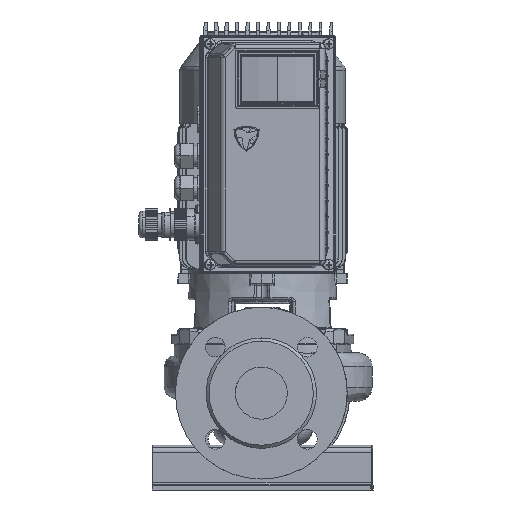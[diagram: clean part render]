
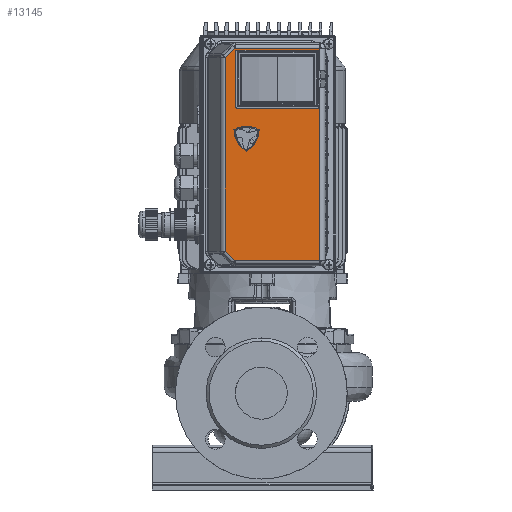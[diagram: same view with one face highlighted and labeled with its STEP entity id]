
A CAD part, front view. The second image highlights one B-rep face of the part: STEP entity #13145.
In plain terms, the highlighted planar face has unit normal (-0.01, -1, 0) as drawn and (0, 0.276, -0.961) by its records, which use the part's own axes.
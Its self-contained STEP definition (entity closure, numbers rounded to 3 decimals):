
#13145=ADVANCED_FACE('',(#26894,#26895),#26896,.T.);
#13173=EDGE_CURVE('',#26938,#26921,#26941,.T.);
#13765=EDGE_CURVE('',#27885,#27865,#27886,.T.);
#14253=EDGE_CURVE('',#28655,#28656,#28657,.T.);
#14261=EDGE_CURVE('',#28656,#28667,#28668,.T.);
#14267=EDGE_CURVE('',#28667,#28675,#28676,.T.);
#14273=EDGE_CURVE('',#28675,#28655,#28683,.T.);
#14735=EDGE_CURVE('',#29199,#27885,#29200,.T.);
#15273=EDGE_CURVE('',#29794,#26938,#29797,.T.);
#15277=EDGE_CURVE('',#27865,#26921,#29801,.T.);
#15279=EDGE_CURVE('',#29199,#29794,#29803,.T.);
#26894=FACE_OUTER_BOUND('',#49371,.T.);
#26895=FACE_BOUND('',#49372,.T.);
#26896=PLANE('',#49373);
#26921=VERTEX_POINT('',#49404);
#26938=VERTEX_POINT('',#49427);
#26941=LINE('',#49431,#49432);
#27865=VERTEX_POINT('',#50714);
#27885=VERTEX_POINT('',#50741);
#27886=LINE('',#50742,#50743);
#28655=VERTEX_POINT('',#51815);
#28656=VERTEX_POINT('',#51816);
#28657=LINE('',#51817,#51818);
#28667=VERTEX_POINT('',#51835);
#28668=LINE('',#51836,#51837);
#28675=VERTEX_POINT('',#51849);
#28676=LINE('',#51850,#51851);
#28683=LINE('',#51863,#51864);
#29199=VERTEX_POINT('',#52673);
#29200=LINE('',#52674,#52675);
#29794=VERTEX_POINT('',#53618);
#29797=LINE('',#53622,#53623);
#29801=LINE('',#53629,#53630);
#29803=LINE('',#53633,#53634);
#49371=EDGE_LOOP('',(#80060,#80061,#80062,#80063,#80064,#80065));
#49372=EDGE_LOOP('',(#80066,#80067,#80068,#80069));
#49373=AXIS2_PLACEMENT_3D('',#80070,#80071,#80072);
#49404=CARTESIAN_POINT('',(-102.0,-29.808,20.194));
#49427=CARTESIAN_POINT('',(-102.0,48.307,42.593));
#49431=CARTESIAN_POINT('',(-102.0,48.307,42.593));
#49432=VECTOR('',#80123,1.0);
#50714=CARTESIAN_POINT('',(102.0,-29.808,20.194));
#50741=CARTESIAN_POINT('',(102.0,48.307,42.593));
#50742=CARTESIAN_POINT('',(102.0,48.307,42.593));
#50743=VECTOR('',#80886,1.0);
#51815=CARTESIAN_POINT('',(-50.,42.286,40.866));
#51816=CARTESIAN_POINT('',(-95.,42.286,40.866));
#51817=CARTESIAN_POINT('',(-50.,42.286,40.866));
#51818=VECTOR('',#81513,1.0);
#51835=CARTESIAN_POINT('',(-95.,-24.041,21.847));
#51836=CARTESIAN_POINT('',(-95.,42.286,40.866));
#51837=VECTOR('',#81517,1.0);
#51849=CARTESIAN_POINT('',(-50.,-24.041,21.847));
#51850=CARTESIAN_POINT('',(-95.,-24.041,21.847));
#51851=VECTOR('',#81520,1.0);
#51863=CARTESIAN_POINT('',(-50.,-24.041,21.847));
#51864=VECTOR('',#81523,1.0);
#52673=CARTESIAN_POINT('',(92.929,57.378,45.194));
#52674=CARTESIAN_POINT('',(92.929,57.378,45.194));
#52675=VECTOR('',#82105,1.0);
#53618=CARTESIAN_POINT('',(-92.929,57.378,45.194));
#53622=CARTESIAN_POINT('',(-92.929,57.378,45.194));
#53623=VECTOR('',#82763,1.0);
#53629=CARTESIAN_POINT('',(102.0,-29.808,20.194));
#53630=VECTOR('',#82767,1.0);
#53633=CARTESIAN_POINT('',(92.929,57.378,45.194));
#53634=VECTOR('',#82768,1.0);
#80060=ORIENTED_EDGE('',*,*,#13173,.F.);
#80061=ORIENTED_EDGE('',*,*,#15273,.F.);
#80062=ORIENTED_EDGE('',*,*,#15279,.F.);
#80063=ORIENTED_EDGE('',*,*,#14735,.T.);
#80064=ORIENTED_EDGE('',*,*,#13765,.T.);
#80065=ORIENTED_EDGE('',*,*,#15277,.T.);
#80066=ORIENTED_EDGE('',*,*,#14267,.T.);
#80067=ORIENTED_EDGE('',*,*,#14273,.T.);
#80068=ORIENTED_EDGE('',*,*,#14253,.T.);
#80069=ORIENTED_EDGE('',*,*,#14261,.T.);
#80070=CARTESIAN_POINT('',(0.0,13.785,32.694));
#80071=DIRECTION('',(0.0,0.276,-0.961));
#80072=DIRECTION('',(-1.0,0.0,0.0));
#80123=DIRECTION('',(0.,-0.961,-0.276));
#80886=DIRECTION('',(0.,-0.961,-0.276));
#81513=DIRECTION('',(-1.0,0.,0.));
#81517=DIRECTION('',(0.0,-0.961,-0.276));
#81520=DIRECTION('',(1.0,0.,0.0));
#81523=DIRECTION('',(0.0,0.961,0.276));
#82105=DIRECTION('',(0.693,-0.693,-0.199));
#82763=DIRECTION('',(-0.693,-0.693,-0.199));
#82767=DIRECTION('',(-1.0,0.,0.));
#82768=DIRECTION('',(-1.0,0.,0.));
